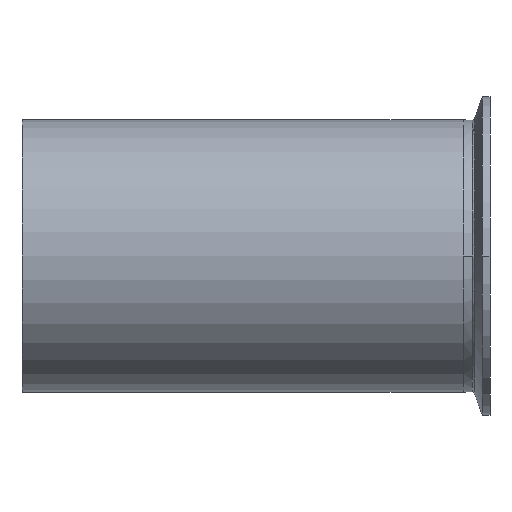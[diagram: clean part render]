
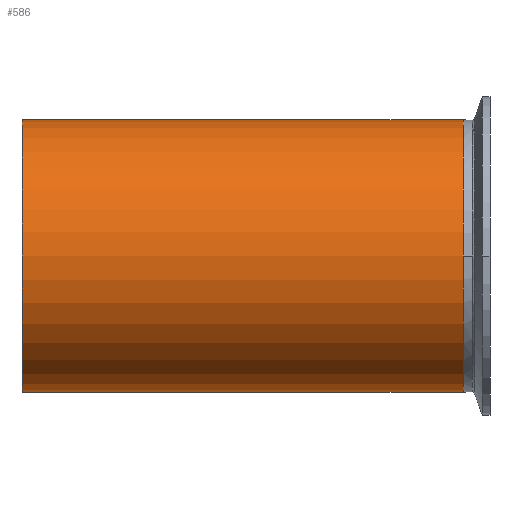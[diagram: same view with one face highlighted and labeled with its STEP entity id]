
A CAD part, front view. The second image highlights one B-rep face of the part: STEP entity #586.
In plain terms, the highlighted cylindrical face has radius 50.8 mm (diameter 101.6 mm), a partial arc.
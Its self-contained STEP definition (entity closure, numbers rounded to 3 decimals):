
#128 = VECTOR ( 'NONE', #697, 1000. ) ;
#136 = CARTESIAN_POINT ( 'NONE',  ( 203.584, 0., -50.8 ) ) ;
#144 = ORIENTED_EDGE ( 'NONE', *, *, #530, .F. ) ;
#145 = CIRCLE ( 'NONE', #267, 50.8 ) ;
#253 = EDGE_CURVE ( 'NONE', #403, #515, #145, .T. ) ;
#267 = AXIS2_PLACEMENT_3D ( 'NONE', #531, #535, #539 ) ;
#316 = AXIS2_PLACEMENT_3D ( 'NONE', #1613, #1554, #1517 ) ;
#403 = VERTEX_POINT ( 'NONE', #1072 ) ;
#411 = CARTESIAN_POINT ( 'NONE',  ( 0., 0., -50.8 ) ) ;
#478 = CARTESIAN_POINT ( 'NONE',  ( 203.584, 0., 50.8 ) ) ;
#479 = EDGE_CURVE ( 'NONE', #1239, #483, #1017, .T. ) ;
#483 = VERTEX_POINT ( 'NONE', #1828 ) ;
#488 = DIRECTION ( 'NONE',  ( -1., 0., 0. ) ) ;
#515 = VERTEX_POINT ( 'NONE', #1663 ) ;
#530 = EDGE_CURVE ( 'NONE', #1761, #515, #616, .T. ) ;
#531 = CARTESIAN_POINT ( 'NONE',  ( -104.8, 0., 0. ) ) ;
#535 = DIRECTION ( 'NONE',  ( 1., 0., 0. ) ) ;
#539 = DIRECTION ( 'NONE',  ( 0., 0., 1. ) ) ;
#569 = FACE_OUTER_BOUND ( 'NONE', #1269, .T. ) ;
#586 = ADVANCED_FACE ( 'NONE', ( #569 ), #1676, .T. ) ;
#616 = LINE ( 'NONE', #1773, #1385 ) ;
#697 = DIRECTION ( 'NONE',  ( -1., 0., 0. ) ) ;
#754 = CARTESIAN_POINT ( 'NONE',  ( 0., 0., 50.8 ) ) ;
#784 = DIRECTION ( 'NONE',  ( -1., 0., 0. ) ) ;
#895 = VERTEX_POINT ( 'NONE', #754 ) ;
#931 = EDGE_CURVE ( 'NONE', #895, #403, #1362, .T. ) ;
#938 = EDGE_CURVE ( 'NONE', #483, #895, #1315, .T. ) ;
#995 = VECTOR ( 'NONE', #784, 1000. ) ;
#1017 = CIRCLE ( 'NONE', #1545, 50.8 ) ;
#1072 = CARTESIAN_POINT ( 'NONE',  ( -104.8, 0., 50.8 ) ) ;
#1098 = CARTESIAN_POINT ( 'NONE',  ( 59.9, 0., -50.8 ) ) ;
#1155 = ORIENTED_EDGE ( 'NONE', *, *, #931, .T. ) ;
#1205 = EDGE_CURVE ( 'NONE', #1239, #1761, #1671, .T. ) ;
#1239 = VERTEX_POINT ( 'NONE', #1098 ) ;
#1269 = EDGE_LOOP ( 'NONE', ( #1441, #1314, #1431, #1155, #1578, #144 ) ) ;
#1314 = ORIENTED_EDGE ( 'NONE', *, *, #479, .T. ) ;
#1315 = LINE ( 'NONE', #478, #1465 ) ;
#1362 = LINE ( 'NONE', #1392, #995 ) ;
#1385 = VECTOR ( 'NONE', #1658, 1000. ) ;
#1392 = CARTESIAN_POINT ( 'NONE',  ( 203.584, 0., 50.8 ) ) ;
#1431 = ORIENTED_EDGE ( 'NONE', *, *, #938, .T. ) ;
#1441 = ORIENTED_EDGE ( 'NONE', *, *, #1205, .F. ) ;
#1465 = VECTOR ( 'NONE', #488, 1000. ) ;
#1517 = DIRECTION ( 'NONE',  ( 0., 0., 1. ) ) ;
#1545 = AXIS2_PLACEMENT_3D ( 'NONE', #1764, #1756, #1748 ) ;
#1554 = DIRECTION ( 'NONE',  ( -1., 0., 0. ) ) ;
#1578 = ORIENTED_EDGE ( 'NONE', *, *, #253, .T. ) ;
#1613 = CARTESIAN_POINT ( 'NONE',  ( 203.584, 0., 0. ) ) ;
#1658 = DIRECTION ( 'NONE',  ( -1., 0., 0. ) ) ;
#1663 = CARTESIAN_POINT ( 'NONE',  ( -104.8, 0., -50.8 ) ) ;
#1671 = LINE ( 'NONE', #136, #128 ) ;
#1676 = CYLINDRICAL_SURFACE ( 'NONE', #316, 50.8 ) ;
#1748 = DIRECTION ( 'NONE',  ( 0., 0., 1. ) ) ;
#1756 = DIRECTION ( 'NONE',  ( -1., 0., 0. ) ) ;
#1761 = VERTEX_POINT ( 'NONE', #411 ) ;
#1764 = CARTESIAN_POINT ( 'NONE',  ( 59.9, 0., 0. ) ) ;
#1773 = CARTESIAN_POINT ( 'NONE',  ( 203.584, 0., -50.8 ) ) ;
#1828 = CARTESIAN_POINT ( 'NONE',  ( 59.9, 0., 50.8 ) ) ;
